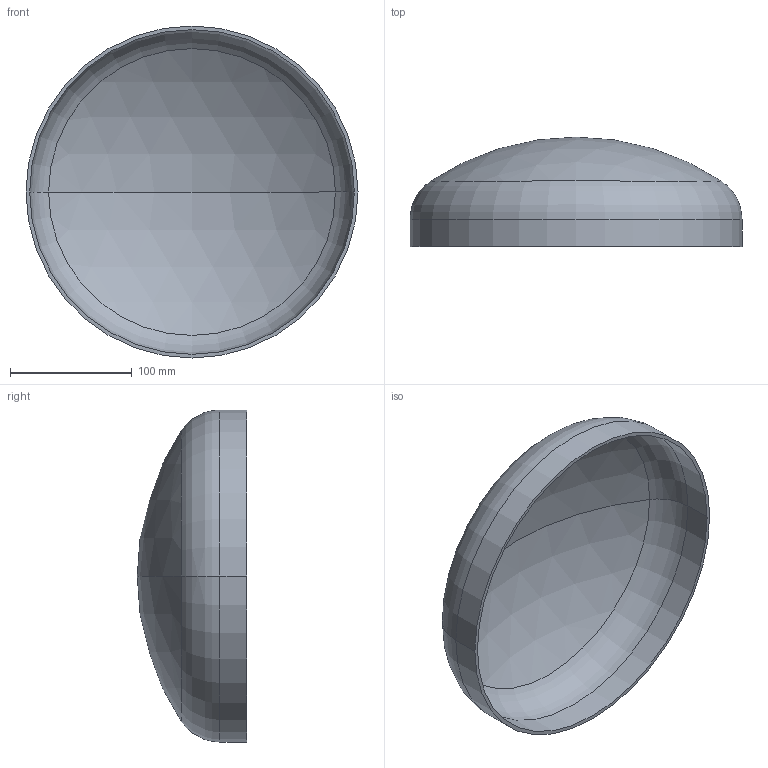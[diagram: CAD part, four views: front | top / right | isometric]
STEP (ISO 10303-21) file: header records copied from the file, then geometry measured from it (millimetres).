
FILE_DESCRIPTION (( 'STEP AP203' ), '1' );
FILE_NAME ('3D_R365_273x3_173372140.STEP', '2024-07-16T06:57:50', ( '' ), ( '' ), 'SwSTEP 2.0', 'SolidWorks 2024', '' );
FILE_SCHEMA (( 'CONFIG_CONTROL_DESIGN' ));
Length unit declared in the file: millimetre
Products named in the file (1): 3D_R365_273x3_173372140
Bounding box: 273 x 90 x 273 mm (x, y, z)
Volume: 288971.4 mm3; surface area: 195211 mm2
Topology: 1 solids, 1 shells, 13 faces, 24 edges, 14 vertices
Faces by surface type: sphere 4, torus 4, cylinder 4, plane 1
Entity records: 407 total; most frequent: DIRECTION 72, CARTESIAN_POINT 52, ORIENTED_EDGE 48, AXIS2_PLACEMENT_3D 34, EDGE_CURVE 24, CIRCLE 20, VERTEX_POINT 14, EDGE_LOOP 14
